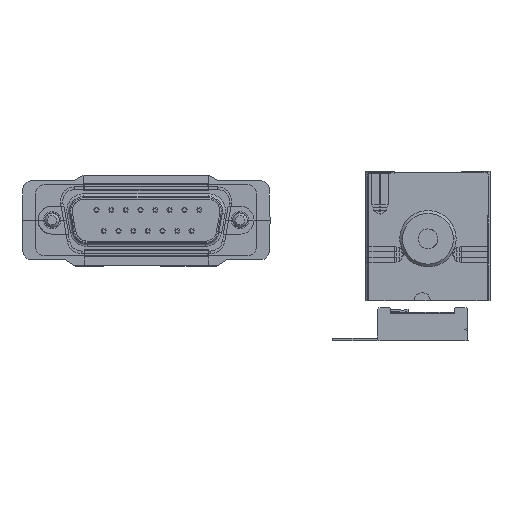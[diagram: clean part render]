
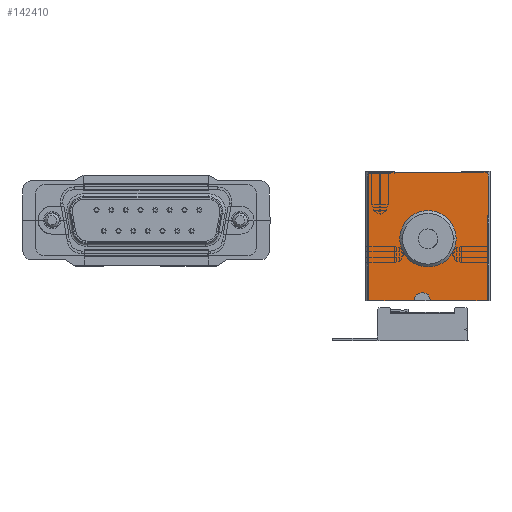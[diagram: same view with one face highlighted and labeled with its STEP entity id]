
A CAD part, front view. The second image highlights one B-rep face of the part: STEP entity #142410.
In plain terms, the highlighted planar face has unit normal (0, -1, 0) as drawn and (1, 0, 0) by its records, which use the part's own axes.
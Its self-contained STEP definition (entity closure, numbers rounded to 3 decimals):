
#133730=CARTESIAN_POINT('',(40.,22.,0.));
#133740=DIRECTION('',(0.,-1.,0.));
#133750=VECTOR('',#133740,1.);
#133760=LINE('',#133730,#133750);
#133770=CARTESIAN_POINT('',(40.,5.,0.));
#133780=VERTEX_POINT('',#133770);
#133790=CARTESIAN_POINT('',(40.,0.5,0.));
#133800=VERTEX_POINT('',#133790);
#133810=EDGE_CURVE('',#133780,#133800,#133760,.T.);
#136680=CARTESIAN_POINT('',(40.,0.5,-23.));
#136690=VERTEX_POINT('',#136680);
#136720=CARTESIAN_POINT('',(40.,0.,-23.));
#136730=DIRECTION('',(0.,1.,0.));
#136740=VECTOR('',#136730,1.);
#136750=LINE('',#136720,#136740);
#136760=CARTESIAN_POINT('',(40.,8.6,-23.));
#136770=VERTEX_POINT('',#136760);
#136780=EDGE_CURVE('',#136690,#136770,#136750,.T.);
#137000=CARTESIAN_POINT('',(40.,11.4,-23.));
#137010=VERTEX_POINT('',#137000);
#137040=CARTESIAN_POINT('',(40.,21.5,-23.));
#137050=VERTEX_POINT('',#137040);
#137060=EDGE_CURVE('',#137010,#137050,#136750,.T.);
#138980=CARTESIAN_POINT('',(40.,11.4,0.));
#138990=DIRECTION('',(0.,0.,1.));
#139000=VECTOR('',#138990,1.);
#139010=LINE('',#138980,#139000);
#139020=CARTESIAN_POINT('',(40.,11.4,-22.8));
#139030=VERTEX_POINT('',#139020);
#139040=EDGE_CURVE('',#137010,#139030,#139010,.T.);
#139710=CARTESIAN_POINT('',(40.,9.8,-22.8));
#139720=DIRECTION('',(-1.,0.,0.));
#139730=DIRECTION('',(0.,1.,0.));
#139740=AXIS2_PLACEMENT_3D('',#139710,#139720,#139730);
#139750=CIRCLE('',#139740,1.2);
#139760=CARTESIAN_POINT('',(40.,8.6,-22.8));
#139770=VERTEX_POINT('',#139760);
#139780=CARTESIAN_POINT('',(40.,9.8,-21.6));
#139790=VERTEX_POINT('',#139780);
#139800=EDGE_CURVE('',#139770,#139790,#139750,.T.);
#140030=CARTESIAN_POINT('',(40.,0.,-21.6));
#140040=DIRECTION('',(0.,-1.,0.));
#140050=VECTOR('',#140040,1.);
#140060=LINE('',#140030,#140050);
#140070=CARTESIAN_POINT('',(40.,10.2,-21.6));
#140080=VERTEX_POINT('',#140070);
#140090=EDGE_CURVE('',#140080,#139790,#140060,.T.);
#140290=CARTESIAN_POINT('',(40.,10.2,-22.8));
#140300=DIRECTION('',(-1.,0.,0.));
#140310=DIRECTION('',(0.,1.,0.));
#140320=AXIS2_PLACEMENT_3D('',#140290,#140300,#140310);
#140330=CIRCLE('',#140320,1.2);
#140340=EDGE_CURVE('',#140080,#139030,#140330,.T.);
#140470=CARTESIAN_POINT('',(40.,8.6,0.));
#140480=DIRECTION('',(0.,0.,-1.));
#140490=VECTOR('',#140480,1.);
#140500=LINE('',#140470,#140490);
#140510=EDGE_CURVE('',#139770,#136770,#140500,.T.);
#140620=CARTESIAN_POINT('',(40.,5.846,-7.9));
#140630=DIRECTION('',(0.,-1.,0.));
#140640=VECTOR('',#140630,1.);
#140650=LINE('',#140620,#140640);
#140660=CARTESIAN_POINT('',(40.,21.8,-7.9));
#140670=VERTEX_POINT('',#140660);
#140680=CARTESIAN_POINT('',(40.,21.5,-7.9));
#140690=VERTEX_POINT('',#140680);
#140700=EDGE_CURVE('',#140670,#140690,#140650,.T.);
#141430=CARTESIAN_POINT('',(40.,0.1,-0.8));
#141440=DIRECTION('',(1.,-0.,0.));
#141450=DIRECTION('',(0.,0.,-1.));
#141460=AXIS2_PLACEMENT_3D('',#141430,#141440,#141450);
#141470=PLANE('',#141460);
#141480=CARTESIAN_POINT('',(40.,20.9,-1.1));
#141490=DIRECTION('',(1.,0.,0.));
#141500=DIRECTION('',(0.,-1.,0.));
#141510=AXIS2_PLACEMENT_3D('',#141480,#141490,#141500);
#141520=CIRCLE('',#141510,0.9);
#141530=CARTESIAN_POINT('',(40.,21.8,-1.1));
#141540=VERTEX_POINT('',#141530);
#141550=CARTESIAN_POINT('',(40.,20.9,-0.2));
#141560=VERTEX_POINT('',#141550);
#141570=EDGE_CURVE('',#141540,#141560,#141520,.T.);
#141580=ORIENTED_EDGE('',*,*,#141570,.T.);
#141590=CARTESIAN_POINT('',(40.,21.8,-0.8));
#141600=DIRECTION('',(0.,0.,1.));
#141610=VECTOR('',#141600,1.);
#141620=LINE('',#141590,#141610);
#141630=EDGE_CURVE('',#140670,#141540,#141620,.T.);
#141640=ORIENTED_EDGE('',*,*,#141630,.T.);
#141650=ORIENTED_EDGE('',*,*,#140700,.F.);
#141660=CARTESIAN_POINT('',(40.,21.5,0.));
#141670=DIRECTION('',(0.,0.,1.));
#141680=VECTOR('',#141670,1.);
#141690=LINE('',#141660,#141680);
#141700=CARTESIAN_POINT('',(40.,21.5,-8.));
#141710=VERTEX_POINT('',#141700);
#141720=EDGE_CURVE('',#141710,#140690,#141690,.T.);
#141730=ORIENTED_EDGE('',*,*,#141720,.T.);
#141740=CARTESIAN_POINT('',(40.,21.5,-15.5));
#141750=DIRECTION('',(0.,0.,-1.));
#141760=VECTOR('',#141750,1.);
#141770=LINE('',#141740,#141760);
#141780=EDGE_CURVE('',#141710,#137050,#141770,.T.);
#141790=ORIENTED_EDGE('',*,*,#141780,.F.);
#141800=ORIENTED_EDGE('',*,*,#137060,.T.);
#141810=ORIENTED_EDGE('',*,*,#139040,.F.);
#141820=ORIENTED_EDGE('',*,*,#140340,.T.);
#141830=ORIENTED_EDGE('',*,*,#140090,.F.);
#141840=ORIENTED_EDGE('',*,*,#139800,.T.);
#141850=ORIENTED_EDGE('',*,*,#140510,.F.);
#141860=ORIENTED_EDGE('',*,*,#136780,.T.);
#141870=CARTESIAN_POINT('',(40.,0.5,-11.5));
#141880=DIRECTION('',(0.,0.,-1.));
#141890=VECTOR('',#141880,1.);
#141900=LINE('',#141870,#141890);
#141910=EDGE_CURVE('',#133800,#136690,#141900,.T.);
#141920=ORIENTED_EDGE('',*,*,#141910,.T.);
#141930=ORIENTED_EDGE('',*,*,#133810,.T.);
#141940=CARTESIAN_POINT('',(40.,5.,0.));
#141950=DIRECTION('',(0.,0.,-1.));
#141960=VECTOR('',#141950,1.);
#141970=LINE('',#141940,#141960);
#141980=CARTESIAN_POINT('',(40.,5.,-0.5));
#141990=VERTEX_POINT('',#141980);
#142000=EDGE_CURVE('',#133780,#141990,#141970,.T.);
#142010=ORIENTED_EDGE('',*,*,#142000,.F.);
#142020=CARTESIAN_POINT('',(40.,0.,-0.5));
#142030=DIRECTION('',(0.,-1.,0.));
#142040=VECTOR('',#142030,1.);
#142050=LINE('',#142020,#142040);
#142060=CARTESIAN_POINT('',(40.,5.05,-0.5));
#142070=VERTEX_POINT('',#142060);
#142080=EDGE_CURVE('',#142070,#141990,#142050,.T.);
#142090=ORIENTED_EDGE('',*,*,#142080,.T.);
#142100=CARTESIAN_POINT('',(40.,5.05,-0.8));
#142110=DIRECTION('',(0.,0.,1.));
#142120=VECTOR('',#142110,1.);
#142130=LINE('',#142100,#142120);
#142140=CARTESIAN_POINT('',(40.,5.05,-0.2));
#142150=VERTEX_POINT('',#142140);
#142160=EDGE_CURVE('',#142070,#142150,#142130,.T.);
#142170=ORIENTED_EDGE('',*,*,#142160,.F.);
#142180=CARTESIAN_POINT('',(40.,5.646,-0.2));
#142190=DIRECTION('',(0.,1.,0.));
#142200=VECTOR('',#142190,1.);
#142210=LINE('',#142180,#142200);
#142220=EDGE_CURVE('',#142150,#141560,#142210,.T.);
#142230=ORIENTED_EDGE('',*,*,#142220,.F.);
#142240=EDGE_LOOP('',(#142230,#142170,#142090,#142010,#141930,#141920,
#141860,#141850,#141840,#141830,#141820,#141810,#141800,#141790,#141730,
#141650,#141640,#141580));
#142250=FACE_OUTER_BOUND('',#142240,.T.);
#142260=CARTESIAN_POINT('',(40.,11.,-12.));
#142270=DIRECTION('',(1.,0.,0.));
#142280=DIRECTION('',(0.,1.,0.));
#142290=AXIS2_PLACEMENT_3D('',#142260,#142270,#142280);
#142300=CIRCLE('',#142290,5.);
#142310=CARTESIAN_POINT('',(40.,16.,-12.));
#142320=VERTEX_POINT('',#142310);
#142330=CARTESIAN_POINT('',(40.,6.,-12.));
#142340=VERTEX_POINT('',#142330);
#142350=EDGE_CURVE('',#142320,#142340,#142300,.T.);
#142360=ORIENTED_EDGE('',*,*,#142350,.F.);
#142370=EDGE_CURVE('',#142340,#142320,#142300,.T.);
#142380=ORIENTED_EDGE('',*,*,#142370,.F.);
#142390=EDGE_LOOP('',(#142380,#142360));
#142400=FACE_BOUND('',#142390,.T.);
#142410=ADVANCED_FACE('',(#142250,#142400),#141470,.T.);
